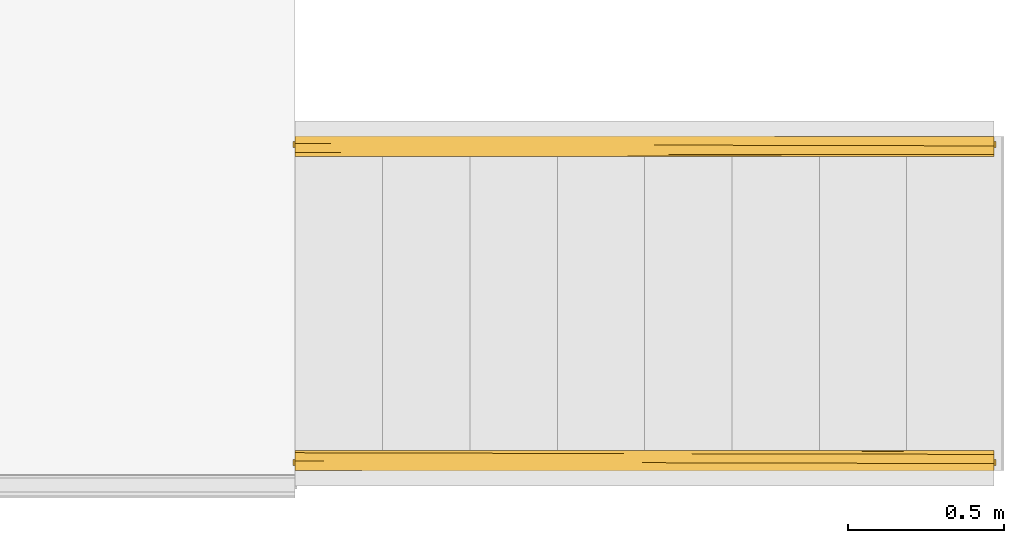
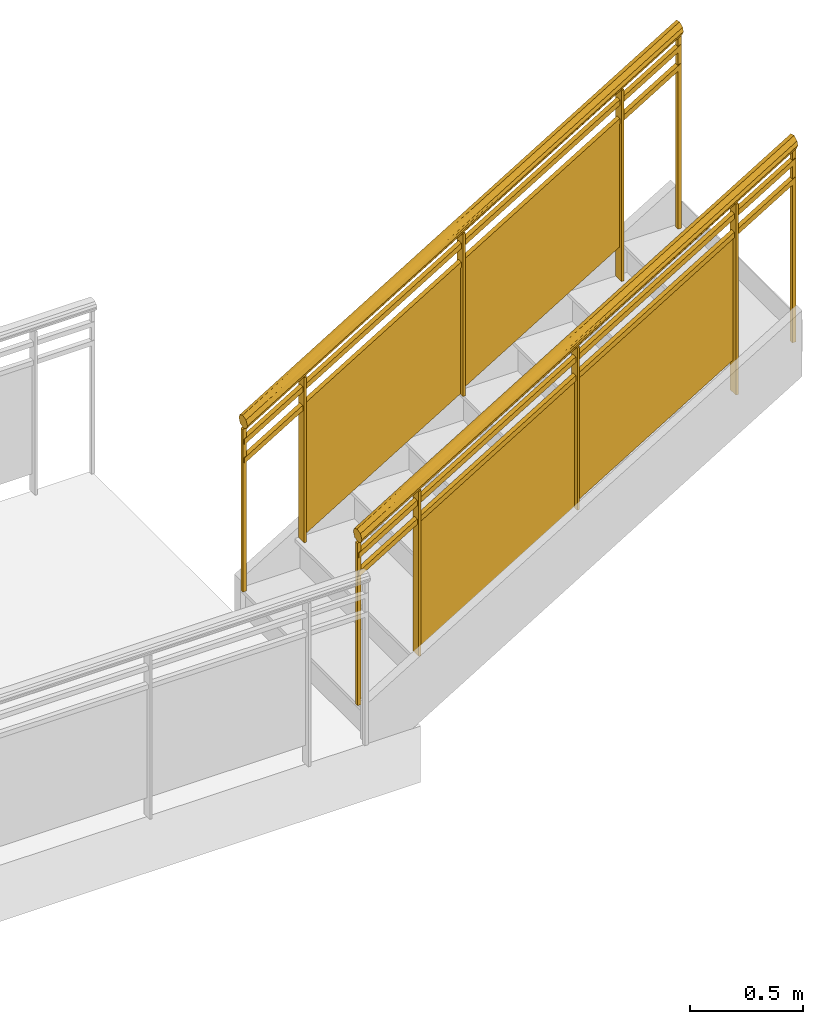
# One storey, part 4 of 4: 2 railings, 1 element without a shape of its own.
"""IFC2X3 building model written with IfcOpenShell, lengths in feet."""

from ifc_helpers import new_model, entity, si_unit, converted_unit, derived_unit, direction, frame, origin, place, context, subcontext, project, spatial, faceted_brep, material, material_list, element, aggregate, save


model = new_model("IFC2X3")

# Units and contexts
model_context = context("Model", 3, precision=0.0001, world=origin(), true_north=direction((6.12303176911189e-17, 1.0)))
body_context = subcontext(model_context, "Body", "Model", "MODEL_VIEW")
ifc_project = project(units=[converted_unit("LENGTHUNIT", "FOOT", entity("IfcRatioMeasure", 0.3048), si_unit("LENGTHUNIT", "METRE"), dimensions=[1, 0, 0, 0, 0, 0, 0]), converted_unit("AREAUNIT", "SQUARE FOOT", entity("IfcRatioMeasure", 0.09290304), si_unit("AREAUNIT", "SQUARE_METRE"), dimensions=[2, 0, 0, 0, 0, 0, 0]), converted_unit("VOLUMEUNIT", "CUBIC FOOT", entity("IfcRatioMeasure", 0.028316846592), si_unit("VOLUMEUNIT", "CUBIC_METRE"), dimensions=[3, 0, 0, 0, 0, 0, 0]), converted_unit("PLANEANGLEUNIT", "DEGREE", entity("IfcRatioMeasure", 0.0174532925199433), si_unit("PLANEANGLEUNIT", "RADIAN"), dimensions=[0, 0, 0, 0, 0, 0, 0]), si_unit("MASSUNIT", "GRAM", prefix="KILO"), derived_unit("MASSDENSITYUNIT", [(si_unit("MASSUNIT", "GRAM", prefix="KILO"), 1), (si_unit("LENGTHUNIT", "METRE"), -3)]), si_unit("TIMEUNIT", "SECOND"), si_unit("FREQUENCYUNIT", "HERTZ"), si_unit("THERMODYNAMICTEMPERATUREUNIT", "DEGREE_CELSIUS"), derived_unit("THERMALTRANSMITTANCEUNIT", [(si_unit("MASSUNIT", "GRAM", prefix="KILO"), 1), (si_unit("THERMODYNAMICTEMPERATUREUNIT", "KELVIN"), -1), (si_unit("TIMEUNIT", "SECOND"), -3)]), derived_unit("VOLUMETRICFLOWRATEUNIT", [(si_unit("LENGTHUNIT", "METRE"), 3), (si_unit("TIMEUNIT", "SECOND"), -1)]), si_unit("ELECTRICCURRENTUNIT", "AMPERE"), si_unit("ELECTRICVOLTAGEUNIT", "VOLT"), si_unit("POWERUNIT", "WATT"), si_unit("FORCEUNIT", "NEWTON"), si_unit("ILLUMINANCEUNIT", "LUX"), si_unit("LUMINOUSFLUXUNIT", "LUMEN"), si_unit("LUMINOUSINTENSITYUNIT", "CANDELA"), derived_unit("USERDEFINED", [(si_unit("MASSUNIT", "GRAM", prefix="KILO"), -1), (si_unit("LENGTHUNIT", "METRE"), -2), (si_unit("TIMEUNIT", "SECOND"), 3), (si_unit("LUMINOUSFLUXUNIT", "LUMEN"), 1)]), derived_unit("LINEARVELOCITYUNIT", [(si_unit("LENGTHUNIT", "METRE"), 1), (si_unit("TIMEUNIT", "SECOND"), -1)]), si_unit("PRESSUREUNIT", "PASCAL"), derived_unit("USERDEFINED", [(si_unit("LENGTHUNIT", "METRE"), -2), (si_unit("MASSUNIT", "GRAM", prefix="KILO"), 1), (si_unit("TIMEUNIT", "SECOND"), -2)])], contexts=[model_context])

# Site, building, storey
site_placement = place(None, origin())
site = spatial("IfcSite", under=ifc_project, at=site_placement, Name="Default", CompositionType="ELEMENT")
building_placement = place(site_placement, origin())
building = spatial("IfcBuilding", under=site, at=building_placement, CompositionType="ELEMENT")
storey_placement = place(building_placement, frame((0.0, 0.0, 5.0)))
storey = spatial("IfcBuildingStorey", under=building, at=storey_placement, Name="L 1", CompositionType="ELEMENT", Elevation=4.99999999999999)

# Stair, railings
stair_placement = place(storey_placement, origin())
stair = element("IfcStair", 1, at=stair_placement, inside=storey, Name="Assembled Stair:Stair", ObjectType="Assembled Stair:7\" max riser 11\" tread", ShapeType="NOTDEFINED")
ifc_material_1 = material(Name="Glass")
ifc_material_2 = material(Name="alum - color")
ifc_material_list_1 = material_list([ifc_material_1, ifc_material_2])
railing_1_placement = place(stair_placement, frame((-29.0126627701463, -11.8838750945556, 0.555555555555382)))
railing_1 = element("IfcRailing", 2, at=railing_1_placement, material=ifc_material_list_1, Name="Railing:Glass Panel - Bottom Fill", ObjectType="Railing:Glass Panel - Bottom Fill", PredefinedType="NOTDEFINED", context=body_context, shape_type="Brep", body=[
    faceted_brep([(1.04166666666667, 0.213567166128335, 3.50850232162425), (1.04166666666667, 0.0469004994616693, 3.50850232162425), (1.04166666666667, 0.0469004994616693, 0.555555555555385), (1.04166666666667, 0.213567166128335, 0.555555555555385), (1.0, 0.213567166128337, 3.48324979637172), (1.0, 0.213567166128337, 0.555555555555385), (1.0, 0.0469004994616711, 3.48324979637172), (1.0, 0.0469004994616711, 0.555555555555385)], [[[0, 1, 2, 3]], [[4, 0, 3, 5]], [[6, 4, 5, 7]], [[1, 6, 7, 2]], [[1, 0, 4, 6]], [[3, 2, 7, 5]]]),
    faceted_brep([(3.6875, 0.108793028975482, 2.25252525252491), (3.6875, 0.108793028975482, 4.50683388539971), (1.02083333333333, 0.108793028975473, 2.89067226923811), (1.02083333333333, 0.108793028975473, 0.636363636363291), (3.6875, 0.129626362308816, 2.25252525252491), (1.02083333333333, 0.129626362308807, 0.636363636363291), (1.02083333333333, 0.129626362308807, 2.89067226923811), (3.6875, 0.129626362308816, 4.50683388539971)], [[[0, 1, 2, 3]], [[4, 5, 6, 7]], [[1, 0, 4, 7]], [[2, 1, 7, 6]], [[3, 2, 6, 5]], [[0, 3, 5, 4]]]),
    faceted_brep([(3.70833333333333, 0.213567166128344, 5.12466393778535), (3.70833333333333, 0.0469004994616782, 5.12466393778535), (3.70833333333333, 0.0469004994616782, 2.22222222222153), (3.70833333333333, 0.213567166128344, 2.22222222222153), (3.66666666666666, 0.213567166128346, 5.09941141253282), (3.66666666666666, 0.213567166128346, 2.22222222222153), (3.66666666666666, 0.04690049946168, 5.09941141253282), (3.66666666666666, 0.04690049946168, 2.22222222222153)], [[[0, 1, 2, 3]], [[4, 0, 3, 5]], [[6, 4, 5, 7]], [[1, 6, 7, 2]], [[1, 0, 4, 6]], [[3, 2, 7, 5]]]),
    faceted_brep([(6.35416666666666, 0.108793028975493, 3.91919191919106), (6.35416666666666, 0.108793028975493, 6.1229955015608), (3.6875, 0.108793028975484, 4.50683388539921), (3.6875, 0.108793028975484, 2.30303030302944), (6.35416666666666, 0.129626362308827, 3.91919191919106), (3.6875, 0.129626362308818, 2.30303030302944), (3.6875, 0.129626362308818, 4.50683388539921), (6.35416666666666, 0.129626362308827, 6.1229955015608)], [[[0, 1, 2, 3]], [[4, 5, 6, 7]], [[1, 0, 4, 7]], [[2, 1, 7, 6]], [[3, 2, 6, 5]], [[0, 3, 5, 4]]]),
    faceted_brep([(6.375, 0.213567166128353, 6.74082555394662), (6.375, 0.0469004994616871, 6.74082555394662), (6.375, 0.0469004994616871, 3.3333333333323), (6.375, 0.213567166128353, 3.3333333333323), (6.33333333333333, 0.213567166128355, 6.71557302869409), (6.33333333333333, 0.213567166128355, 3.3333333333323), (6.33333333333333, 0.0469004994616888, 6.71557302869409), (6.33333333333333, 0.0469004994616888, 3.3333333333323)], [[[0, 1, 2, 3]], [[4, 0, 3, 5]], [[6, 4, 5, 7]], [[1, 6, 7, 2]], [[1, 0, 4, 6]], [[3, 2, 7, 5]]]),
    faceted_brep([(0.0625, 0.161483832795, 2.91506797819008), (0.0625, 0.0989838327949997, 2.91506797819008), (0.0625, 0.0989838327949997, 0.0), (0.0625, 0.161483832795, 0.0), (0.0, 0.161483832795, 2.87718919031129), (0.0, 0.161483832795, 0.0), (0.0, 0.0989838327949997, 2.87718919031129), (0.0, 0.0989838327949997, 0.0)], [[[0, 1, 2, 3]], [[4, 0, 3, 5]], [[6, 4, 5, 7]], [[1, 6, 7, 2]], [[1, 0, 4, 6]], [[3, 2, 7, 5]]]),
    faceted_brep([(7.375, 0.161483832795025, 7.34688616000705), (7.375, 0.0989838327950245, 7.34688616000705), (7.375, 0.0989838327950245, 3.88888888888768), (7.375, 0.161483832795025, 3.88888888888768), (7.3125, 0.161483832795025, 7.30900737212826), (7.3125, 0.161483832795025, 3.88888888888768), (7.3125, 0.0989838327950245, 7.30900737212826), (7.3125, 0.0989838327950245, 3.88888888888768)], [[[0, 1, 2, 3]], [[4, 0, 3, 5]], [[6, 4, 5, 7]], [[1, 6, 7, 2]], [[1, 0, 4, 6]], [[3, 2, 7, 5]]]),
    faceted_brep([(7.35416666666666, 0.171900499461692, 7.15983278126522), (7.35416666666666, 0.0885671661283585, 7.15983278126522), (7.35416666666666, 0.0885671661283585, 7.06238944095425), (7.35416666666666, 0.171900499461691, 7.06238944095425), (0.0208333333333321, 0.171900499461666, 2.71538833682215), (0.0208333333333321, 0.171900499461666, 2.61794499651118), (0.0208333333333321, 0.0885671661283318, 2.61794499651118), (0.0208333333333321, 0.0885671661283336, 2.71538833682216)], [[[0, 1, 2, 3]], [[4, 5, 6, 7]], [[1, 0, 4, 7]], [[2, 1, 7, 6]], [[3, 2, 6, 5]], [[0, 3, 5, 4]]]),
    faceted_brep([(7.35416666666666, 0.171900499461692, 6.82649944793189), (7.35416666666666, 0.0885671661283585, 6.82649944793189), (7.35416666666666, 0.0885671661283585, 6.72905610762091), (7.35416666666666, 0.171900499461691, 6.72905610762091), (0.0208333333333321, 0.171900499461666, 2.38205500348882), (0.0208333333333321, 0.171900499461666, 2.28461166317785), (0.0208333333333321, 0.0885671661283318, 2.28461166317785), (0.0208333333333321, 0.0885671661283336, 2.38205500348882)], [[[0, 1, 2, 3]], [[4, 5, 6, 7]], [[1, 0, 4, 7]], [[2, 1, 7, 6]], [[3, 2, 6, 5]], [[0, 3, 5, 4]]]),
    faceted_brep([(0.0208333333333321, 0.0465925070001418, 3.0814663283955), (0.0208333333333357, 0.0949461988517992, 3.09524477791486), (0.0208333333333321, 0.143299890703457, 3.10902322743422), (0.0208333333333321, 0.187330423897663, 3.08672922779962), (0.0208333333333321, 0.231360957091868, 3.06443522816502), (0.0208333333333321, 0.243297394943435, 3.03221761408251), (0.0208333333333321, 0.255233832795, 3.0), (0.0208333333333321, 0.234554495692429, 2.95926683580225), (0.0208333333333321, 0.213875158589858, 2.9185336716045), (0.0208333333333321, 0.165521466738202, 2.90475522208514), (0.0208333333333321, 0.141344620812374, 2.89786599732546), (0.0208333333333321, 0.117167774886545, 2.89097677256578), (0.0208333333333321, 0.0731372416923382, 2.91327077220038), (0.0208333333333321, 0.0291067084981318, 2.93556477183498), (0.0208333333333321, 0.0171702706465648, 2.96778238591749), (0.0208333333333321, 0.00523383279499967, 3.0), (0.0208333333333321, 0.0259131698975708, 3.04073316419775), (7.35416666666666, 0.0259131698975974, 7.40371128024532), (7.35416666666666, 0.0465925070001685, 7.36297811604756), (7.35416666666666, 0.0949461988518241, 7.3491996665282), (7.35416666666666, 0.143299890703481, 7.33542121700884), (7.35416666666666, 0.187330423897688, 7.35771521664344), (7.35416666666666, 0.231360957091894, 7.38000921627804), (7.35416666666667, 0.243297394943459, 7.41222683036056), (7.35416666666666, 0.255233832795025, 7.44444444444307), (7.35416666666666, 0.2443789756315, 7.46582582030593), (7.35416666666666, 0.234554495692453, 7.48517760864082), (7.35416666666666, 0.213875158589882, 7.52591077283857), (7.35416666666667, 0.165521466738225, 7.53968922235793), (7.35416666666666, 0.117167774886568, 7.55346767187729), (7.35416666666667, 0.0951525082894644, 7.54232067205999), (7.35416666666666, 0.073137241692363, 7.53117367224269), (7.35416666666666, 0.0291067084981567, 7.50887967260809), (7.35416666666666, 0.0171702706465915, 7.47666205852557), (7.35416666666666, 0.00523383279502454, 7.44444444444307), (3.70029054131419, 0.246755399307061, 5.19028869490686), (3.8724781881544, 0.17751178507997, 5.23284993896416), (3.91578387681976, 0.207600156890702, 5.27447257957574), (3.07871506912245, 0.231313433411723, 4.7887691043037), (3.15948342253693, 0.25523383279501, 4.90221217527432), (4.21550890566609, 0.255233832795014, 5.54222761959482), (4.0411483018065, 0.0629732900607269, 5.34415364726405), (3.2258587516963, 0.0946029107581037, 4.83736380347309), (3.68929300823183, 0.130201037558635, 5.11368513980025), (3.72718018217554, 0.0367721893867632, 5.1734757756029), (3.44651497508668, 0.0177333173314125, 5.02838773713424), (3.15947862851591, 0.00523383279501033, 4.90220926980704), (3.54783177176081, 0.0115093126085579, 5.17187272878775), (3.33044597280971, 0.0259810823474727, 5.0663086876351), (4.14481111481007, 0.0490518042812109, 5.58273826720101), (3.6859022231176, 0.0794402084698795, 5.32141906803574), (3.19149194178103, 0.251785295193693, 4.94718335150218), (3.5434095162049, 0.127144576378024, 5.24448493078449), (3.4271662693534, 0.161623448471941, 5.17055526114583), (3.59902271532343, 0.221853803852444, 5.2431735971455), (3.37926588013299, 0.241652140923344, 5.08510860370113), (4.26044448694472, 0.193327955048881, 5.66409552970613)], [[[0, 1, 2, 3, 4, 5, 6, 7, 8, 9, 10, 11, 12, 13, 14, 15, 16]], [[17, 18, 19, 20, 21, 22, 23, 24, 25, 26, 27, 28, 29, 30, 31, 32, 33, 34]], [[35, 7, 6]], [[9, 8, 36, 10]], [[22, 37, 38]], [[37, 36, 8]], [[21, 36, 37]], [[35, 6, 39, 40]], [[41, 42, 19]], [[38, 7, 35]], [[19, 42, 43]], [[44, 41, 18]], [[13, 45, 14]], [[8, 38, 37]], [[44, 12, 41]], [[38, 8, 7]], [[11, 43, 42]], [[17, 34, 46]], [[35, 23, 22]], [[11, 10, 43]], [[40, 24, 23]], [[21, 37, 22]], [[36, 21, 20]], [[36, 20, 43]], [[36, 43, 10]], [[43, 20, 19]], [[42, 12, 11]], [[12, 42, 41]], [[13, 12, 44]], [[18, 41, 19]], [[46, 15, 14]], [[44, 18, 17]], [[17, 45, 44]], [[38, 35, 22]], [[45, 17, 46]], [[23, 35, 40]], [[44, 45, 13]], [[14, 45, 46]], [[16, 47, 48]], [[0, 48, 49]], [[49, 31, 50]], [[31, 30, 50]], [[51, 26, 25]], [[2, 52, 53]], [[54, 27, 26]], [[54, 55, 4]], [[26, 51, 55]], [[47, 16, 15]], [[54, 26, 55]], [[5, 4, 55]], [[25, 24, 40, 39]], [[56, 54, 3]], [[56, 3, 53]], [[50, 0, 49]], [[27, 54, 56]], [[51, 39, 6]], [[53, 52, 28]], [[54, 4, 3]], [[56, 28, 27]], [[28, 56, 53]], [[5, 55, 51]], [[29, 28, 52]], [[2, 53, 3]], [[30, 29, 52]], [[52, 2, 1]], [[1, 0, 50]], [[52, 50, 30]], [[1, 50, 52]], [[49, 32, 31]], [[32, 49, 48]], [[33, 48, 47]], [[16, 48, 0]], [[46, 34, 47, 15]], [[33, 32, 48]], [[33, 47, 34]], [[5, 51, 6]], [[39, 51, 25]]]),
])
ifc_material_list_2 = material_list([ifc_material_1, ifc_material_2])
railing_2_placement = place(stair_placement, frame((-29.0126627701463, -15.2172084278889, 0.555555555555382)))
railing_2 = element("IfcRailing", 3, at=railing_2_placement, material=ifc_material_list_2, Name="Railing:Glass Panel - Bottom Fill", ObjectType="Railing:Glass Panel - Bottom Fill", PredefinedType="NOTDEFINED", context=body_context, shape_type="Brep", body=[
    faceted_brep([(1.04166666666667, 0.0469004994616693, 3.50850232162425), (1.04166666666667, 0.0469004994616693, 0.555555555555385), (1.04166666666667, 0.213567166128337, 0.555555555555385), (1.04166666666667, 0.213567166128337, 3.50850232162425), (1.0, 0.0469004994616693, 3.48324979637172), (1.0, 0.0469004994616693, 0.555555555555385), (1.0, 0.213567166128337, 3.48324979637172), (1.0, 0.213567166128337, 0.555555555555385)], [[[0, 1, 2, 3]], [[4, 5, 1, 0]], [[6, 7, 5, 4]], [[3, 2, 7, 6]], [[3, 6, 4, 0]], [[1, 5, 7, 2]]]),
    faceted_brep([(3.6875, 0.151674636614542, 2.25252525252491), (1.02083333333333, 0.151674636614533, 0.636363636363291), (1.02083333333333, 0.151674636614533, 2.89067226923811), (3.6875, 0.151674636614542, 4.50683388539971), (3.6875, 0.130841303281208, 2.25252525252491), (3.6875, 0.130841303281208, 4.50683388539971), (1.02083333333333, 0.130841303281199, 2.89067226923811), (1.02083333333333, 0.130841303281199, 0.636363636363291)], [[[0, 1, 2, 3]], [[4, 5, 6, 7]], [[3, 5, 4, 0]], [[2, 6, 5, 3]], [[1, 7, 6, 2]], [[0, 4, 7, 1]]]),
    faceted_brep([(3.70833333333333, 0.0469004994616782, 5.12466393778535), (3.70833333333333, 0.0469004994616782, 2.22222222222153), (3.70833333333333, 0.213567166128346, 2.22222222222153), (3.70833333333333, 0.213567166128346, 5.12466393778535), (3.66666666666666, 0.0469004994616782, 5.09941141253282), (3.66666666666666, 0.0469004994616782, 2.22222222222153), (3.66666666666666, 0.213567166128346, 5.09941141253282), (3.66666666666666, 0.213567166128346, 2.22222222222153)], [[[0, 1, 2, 3]], [[4, 5, 1, 0]], [[6, 7, 5, 4]], [[3, 2, 7, 6]], [[3, 6, 4, 0]], [[1, 5, 7, 2]]]),
    faceted_brep([(6.35416666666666, 0.151674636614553, 3.91919191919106), (3.6875, 0.151674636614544, 2.30303030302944), (3.6875, 0.151674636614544, 4.50683388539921), (6.35416666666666, 0.151674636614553, 6.1229955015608), (6.35416666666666, 0.130841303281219, 3.91919191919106), (6.35416666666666, 0.130841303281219, 6.1229955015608), (3.6875, 0.13084130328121, 4.50683388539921), (3.6875, 0.13084130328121, 2.30303030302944)], [[[0, 1, 2, 3]], [[4, 5, 6, 7]], [[3, 5, 4, 0]], [[2, 6, 5, 3]], [[1, 7, 6, 2]], [[0, 4, 7, 1]]]),
    faceted_brep([(6.375, 0.0469004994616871, 6.74082555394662), (6.375, 0.0469004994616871, 3.3333333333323), (6.375, 0.213567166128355, 3.3333333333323), (6.375, 0.213567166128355, 6.74082555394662), (6.33333333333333, 0.0469004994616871, 6.71557302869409), (6.33333333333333, 0.0469004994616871, 3.3333333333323), (6.33333333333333, 0.213567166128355, 6.71557302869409), (6.33333333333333, 0.213567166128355, 3.3333333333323)], [[[0, 1, 2, 3]], [[4, 5, 1, 0]], [[6, 7, 5, 4]], [[3, 2, 7, 6]], [[3, 6, 4, 0]], [[1, 5, 7, 2]]]),
    faceted_brep([(0.0625, 0.0989838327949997, 2.91506797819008), (0.0625, 0.0989838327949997, 0.0), (0.0625, 0.161483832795, 0.0), (0.0625, 0.161483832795, 2.91506797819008), (0.0, 0.0989838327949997, 2.87718919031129), (0.0, 0.0989838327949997, 0.0), (0.0, 0.161483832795, 2.87718919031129), (0.0, 0.161483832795, 0.0)], [[[0, 1, 2, 3]], [[4, 5, 1, 0]], [[6, 7, 5, 4]], [[3, 2, 7, 6]], [[3, 6, 4, 0]], [[1, 5, 7, 2]]]),
    faceted_brep([(7.375, 0.0989838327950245, 7.34688616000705), (7.375, 0.0989838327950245, 3.88888888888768), (7.375, 0.161483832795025, 3.88888888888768), (7.375, 0.161483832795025, 7.34688616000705), (7.3125, 0.0989838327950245, 7.30900737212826), (7.3125, 0.0989838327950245, 3.88888888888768), (7.3125, 0.161483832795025, 7.30900737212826), (7.3125, 0.161483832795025, 3.88888888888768)], [[[0, 1, 2, 3]], [[4, 5, 1, 0]], [[6, 7, 5, 4]], [[3, 2, 7, 6]], [[3, 6, 4, 0]], [[1, 5, 7, 2]]]),
    faceted_brep([(7.35416666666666, 0.0885671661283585, 7.15983278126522), (7.35416666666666, 0.0885671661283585, 7.06238944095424), (7.35416666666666, 0.171900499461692, 7.06238944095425), (7.35416666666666, 0.171900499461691, 7.15983278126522), (0.0208333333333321, 0.0885671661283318, 2.71538833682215), (0.0208333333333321, 0.171900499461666, 2.71538833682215), (0.0208333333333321, 0.171900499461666, 2.61794499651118), (0.0208333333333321, 0.0885671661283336, 2.61794499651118)], [[[0, 1, 2, 3]], [[4, 5, 6, 7]], [[1, 0, 4, 7]], [[2, 1, 7, 6]], [[3, 2, 6, 5]], [[0, 3, 5, 4]]]),
    faceted_brep([(7.35416666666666, 0.0885671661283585, 6.82649944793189), (7.35416666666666, 0.0885671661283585, 6.72905610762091), (7.35416666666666, 0.171900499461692, 6.72905610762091), (7.35416666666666, 0.171900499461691, 6.82649944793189), (0.0208333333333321, 0.0885671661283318, 2.38205500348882), (0.0208333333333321, 0.171900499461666, 2.38205500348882), (0.0208333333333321, 0.171900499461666, 2.28461166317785), (0.0208333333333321, 0.0885671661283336, 2.28461166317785)], [[[0, 1, 2, 3]], [[4, 5, 6, 7]], [[1, 0, 4, 7]], [[2, 1, 7, 6]], [[3, 2, 6, 5]], [[0, 3, 5, 4]]]),
    faceted_brep([(0.0208333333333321, 0.0465925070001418, 3.0814663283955), (0.0208333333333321, 0.0949461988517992, 3.09524477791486), (0.0208333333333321, 0.143299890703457, 3.10902322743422), (0.0208333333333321, 0.187330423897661, 3.08672922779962), (0.0208333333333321, 0.231360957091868, 3.06443522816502), (0.0208333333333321, 0.243297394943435, 3.03221761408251), (0.0208333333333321, 0.255233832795, 3.0), (0.0208333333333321, 0.234554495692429, 2.95926683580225), (0.0208333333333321, 0.213875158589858, 2.9185336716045), (0.0208333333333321, 0.165521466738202, 2.90475522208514), (0.0208333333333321, 0.141344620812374, 2.89786599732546), (0.0208333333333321, 0.117167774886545, 2.89097677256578), (0.0208333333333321, 0.0731372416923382, 2.91327077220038), (0.0208333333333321, 0.0291067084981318, 2.93556477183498), (0.0208333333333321, 0.0171702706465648, 2.96778238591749), (0.0208333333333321, 0.00523383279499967, 3.0), (0.0208333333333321, 0.0259131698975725, 3.04073316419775), (7.35416666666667, 0.0259131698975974, 7.40371128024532), (7.35416666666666, 0.0465925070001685, 7.36297811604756), (7.35416666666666, 0.0949461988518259, 7.3491996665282), (7.35416666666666, 0.143299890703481, 7.33542121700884), (7.35416666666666, 0.187330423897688, 7.35771521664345), (7.35416666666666, 0.231360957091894, 7.38000921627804), (7.35416666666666, 0.243297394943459, 7.41222683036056), (7.35416666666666, 0.255233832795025, 7.44444444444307), (7.35416666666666, 0.2443789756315, 7.46582582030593), (7.35416666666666, 0.234554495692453, 7.48517760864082), (7.35416666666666, 0.213875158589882, 7.52591077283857), (7.35416666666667, 0.165521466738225, 7.53968922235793), (7.35416666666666, 0.117167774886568, 7.55346767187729), (7.35416666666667, 0.0951525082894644, 7.54232067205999), (7.35416666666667, 0.073137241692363, 7.53117367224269), (7.35416666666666, 0.0291067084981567, 7.50887967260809), (7.35416666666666, 0.0171702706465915, 7.47666205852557), (7.35416666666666, 0.00523383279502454, 7.44444444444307), (3.70029054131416, 0.246755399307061, 5.19028869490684), (3.87247818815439, 0.177511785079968, 5.23284993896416), (3.91578387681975, 0.207600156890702, 5.27447257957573), (3.07871506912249, 0.231313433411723, 4.78876910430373), (3.15949434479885, 0.255233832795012, 4.902218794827), (4.21550890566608, 0.255233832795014, 5.54222761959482), (4.04114830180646, 0.0629732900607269, 5.34415364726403), (3.22585875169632, 0.0946029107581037, 4.8373638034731), (3.68929300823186, 0.130201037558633, 5.11368513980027), (3.72718018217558, 0.0367721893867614, 5.17347577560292), (3.44651497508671, 0.0177333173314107, 5.02838773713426), (3.15950359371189, 0.00523383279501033, 4.90222440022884), (3.54783177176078, 0.0115093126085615, 5.17187272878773), (3.33044597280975, 0.0259810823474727, 5.06630868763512), (4.14481111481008, 0.0490518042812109, 5.58273826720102), (3.68590222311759, 0.0794402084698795, 5.32141906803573), (3.19149194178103, 0.25178529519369, 4.94718335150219), (3.54340951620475, 0.12714457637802, 5.2444849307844), (3.42716626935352, 0.161623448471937, 5.17055526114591), (3.59902271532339, 0.221853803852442, 5.24317359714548), (3.37926588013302, 0.241652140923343, 5.08510860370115), (4.26044448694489, 0.193327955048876, 5.66409552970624)], [[[0, 1, 2, 3, 4, 5, 6, 7, 8, 9, 10, 11, 12, 13, 14, 15, 16]], [[17, 18, 19, 20, 21, 22, 23, 24, 25, 26, 27, 28, 29, 30, 31, 32, 33, 34]], [[35, 7, 6]], [[9, 8, 36, 10]], [[22, 37, 38]], [[37, 36, 8]], [[21, 36, 37]], [[35, 6, 39, 40]], [[41, 42, 19]], [[38, 7, 35]], [[19, 42, 43]], [[44, 41, 18]], [[13, 45, 14]], [[8, 38, 37]], [[44, 12, 41]], [[38, 8, 7]], [[11, 43, 42]], [[17, 34, 46]], [[35, 23, 22]], [[11, 10, 43]], [[40, 24, 23]], [[21, 37, 22]], [[36, 21, 20]], [[36, 20, 43]], [[36, 43, 10]], [[43, 20, 19]], [[42, 12, 11]], [[12, 42, 41]], [[13, 12, 44]], [[18, 41, 19]], [[46, 15, 14]], [[44, 18, 17]], [[17, 45, 44]], [[38, 35, 22]], [[45, 17, 46]], [[23, 35, 40]], [[44, 45, 13]], [[14, 45, 46]], [[16, 47, 48]], [[0, 48, 49]], [[49, 31, 50]], [[31, 30, 50]], [[51, 26, 25]], [[2, 52, 53]], [[54, 27, 26]], [[54, 55, 4]], [[26, 51, 55]], [[47, 16, 15]], [[54, 26, 55]], [[5, 4, 55]], [[25, 24, 40, 39]], [[56, 54, 3]], [[56, 3, 53]], [[50, 0, 49]], [[27, 54, 56]], [[51, 39, 6]], [[53, 52, 28]], [[54, 4, 3]], [[56, 28, 27]], [[28, 56, 53]], [[5, 55, 51]], [[29, 28, 52]], [[2, 53, 3]], [[30, 29, 52]], [[52, 2, 1]], [[1, 0, 50]], [[52, 50, 30]], [[1, 50, 52]], [[49, 32, 31]], [[32, 49, 48]], [[33, 48, 47]], [[16, 48, 0]], [[46, 34, 47, 15]], [[33, 32, 48]], [[33, 47, 34]], [[5, 51, 6]], [[39, 51, 25]]]),
])
aggregate(stair, [railing_1, railing_2])

save(model, "model.ifc")
